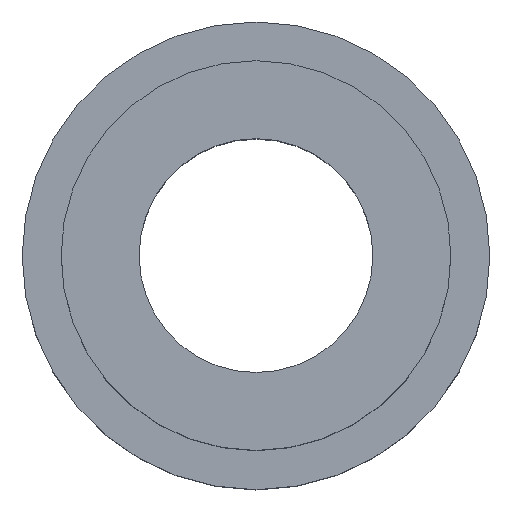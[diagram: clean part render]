
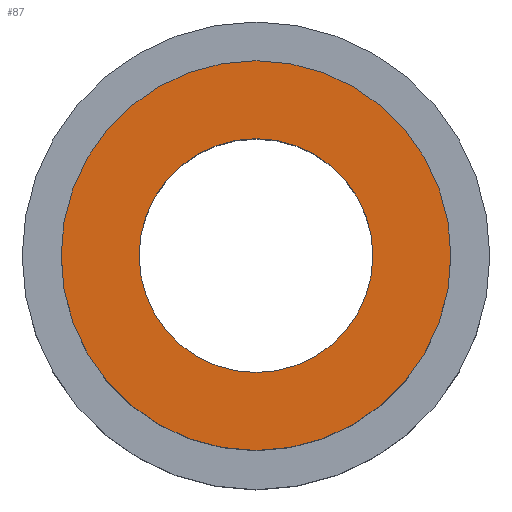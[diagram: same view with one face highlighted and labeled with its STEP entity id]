
A CAD part, top view. The second image highlights one B-rep face of the part: STEP entity #87.
In plain terms, the highlighted planar face has unit normal (0, 0, 1).
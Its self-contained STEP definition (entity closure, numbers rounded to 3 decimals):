
#16=FACE_BOUND('',#32,.T.);
#19=PLANE('',#117);
#24=FACE_OUTER_BOUND('',#31,.T.);
#31=EDGE_LOOP('',(#73));
#32=EDGE_LOOP('',(#74));
#45=CIRCLE('',#116,3.);
#46=CIRCLE('',#118,5.);
#51=VERTEX_POINT('',#162);
#52=VERTEX_POINT('',#166);
#59=EDGE_CURVE('',#51,#51,#45,.T.);
#60=EDGE_CURVE('',#52,#52,#46,.T.);
#73=ORIENTED_EDGE('',*,*,#60,.F.);
#74=ORIENTED_EDGE('',*,*,#59,.T.);
#87=ADVANCED_FACE('',(#24,#16),#19,.T.);
#116=AXIS2_PLACEMENT_3D('',#164,#138,#139);
#117=AXIS2_PLACEMENT_3D('',#165,#140,#141);
#118=AXIS2_PLACEMENT_3D('',#167,#142,#143);
#138=DIRECTION('center_axis',(0.,0.,-1.));
#139=DIRECTION('ref_axis',(1.,0.,0.));
#140=DIRECTION('center_axis',(0.,0.,1.));
#141=DIRECTION('ref_axis',(1.,0.,0.));
#142=DIRECTION('center_axis',(0.,0.,-1.));
#143=DIRECTION('ref_axis',(1.,0.,0.));
#162=CARTESIAN_POINT('',(0.,-3.,4.));
#164=CARTESIAN_POINT('Origin',(0.,0.,4.));
#165=CARTESIAN_POINT('Origin',(0.,5.,4.));
#166=CARTESIAN_POINT('',(0.,-5.,4.));
#167=CARTESIAN_POINT('Origin',(0.,0.,4.));
